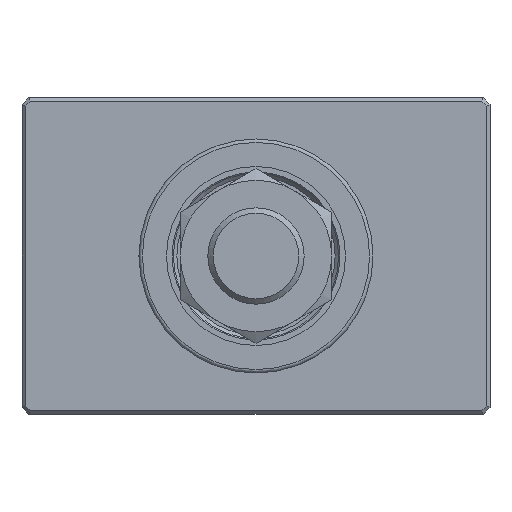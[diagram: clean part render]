
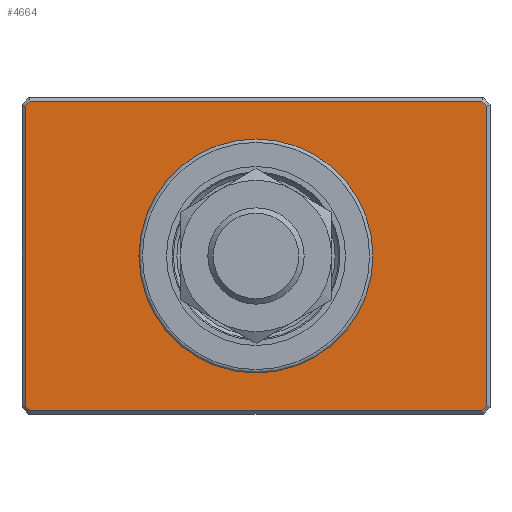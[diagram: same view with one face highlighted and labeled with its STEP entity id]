
A CAD part, front view. The second image highlights one B-rep face of the part: STEP entity #4664.
In plain terms, the highlighted planar face has unit normal (0, -1, 0).
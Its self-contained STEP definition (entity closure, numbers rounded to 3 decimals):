
#3719=CARTESIAN_POINT('',(0.0,-21.,17.0));
#3720=VERTEX_POINT('',#3719);
#3721=CARTESIAN_POINT('',(0.0,-21.,0.0));
#3722=DIRECTION('',(0.0,1.0,0.0));
#3723=DIRECTION('',(0.0,0.0,1.0));
#3724=AXIS2_PLACEMENT_3D('',#3721,#3722,#3723);
#3725=CIRCLE('',#3724,17.0);
#3726=EDGE_CURVE('',#3720,#3720,#3725,.T.);
#4590=CARTESIAN_POINT('',(0.0,-21.,-23.));
#4591=DIRECTION('',(0.0,-1.0,0.0));
#4592=DIRECTION('',(0.0,0.0,-1.0));
#4593=AXIS2_PLACEMENT_3D('',#4590,#4591,#4592);
#4594=PLANE('',#4593);
#4595=CARTESIAN_POINT('',(-32.793,-21.,-22.5));
#4596=VERTEX_POINT('',#4595);
#4597=CARTESIAN_POINT('',(-33.5,-21.,-21.793));
#4598=VERTEX_POINT('',#4597);
#4599=CARTESIAN_POINT('',(-32.793,-21.,-22.5));
#4600=DIRECTION('',(-0.707,0.0,0.707));
#4601=VECTOR('',#4600,1.);
#4602=LINE('',#4599,#4601);
#4603=EDGE_CURVE('',#4596,#4598,#4602,.T.);
#4604=ORIENTED_EDGE('',*,*,#4603,.F.);
#4605=CARTESIAN_POINT('',(32.793,-21.,-22.5));
#4606=VERTEX_POINT('',#4605);
#4607=CARTESIAN_POINT('',(32.793,-21.,-22.5));
#4608=DIRECTION('',(-1.0,0.0,0.0));
#4609=VECTOR('',#4608,65.586);
#4610=LINE('',#4607,#4609);
#4611=EDGE_CURVE('',#4606,#4596,#4610,.T.);
#4612=ORIENTED_EDGE('',*,*,#4611,.F.);
#4613=CARTESIAN_POINT('',(33.5,-21.,-21.793));
#4614=VERTEX_POINT('',#4613);
#4615=CARTESIAN_POINT('',(33.5,-21.,-21.793));
#4616=DIRECTION('',(-0.707,0.0,-0.707));
#4617=VECTOR('',#4616,1.);
#4618=LINE('',#4615,#4617);
#4619=EDGE_CURVE('',#4614,#4606,#4618,.T.);
#4620=ORIENTED_EDGE('',*,*,#4619,.F.);
#4621=CARTESIAN_POINT('',(33.5,-21.,21.793));
#4622=VERTEX_POINT('',#4621);
#4623=CARTESIAN_POINT('',(33.5,-21.,21.793));
#4624=DIRECTION('',(0.0,0.0,-1.0));
#4625=VECTOR('',#4624,43.586);
#4626=LINE('',#4623,#4625);
#4627=EDGE_CURVE('',#4622,#4614,#4626,.T.);
#4628=ORIENTED_EDGE('',*,*,#4627,.F.);
#4629=CARTESIAN_POINT('',(32.793,-21.,22.5));
#4630=VERTEX_POINT('',#4629);
#4631=CARTESIAN_POINT('',(32.793,-21.,22.5));
#4632=DIRECTION('',(0.707,0.0,-0.707));
#4633=VECTOR('',#4632,1.);
#4634=LINE('',#4631,#4633);
#4635=EDGE_CURVE('',#4630,#4622,#4634,.T.);
#4636=ORIENTED_EDGE('',*,*,#4635,.F.);
#4637=CARTESIAN_POINT('',(-32.793,-21.,22.5));
#4638=VERTEX_POINT('',#4637);
#4639=CARTESIAN_POINT('',(-32.793,-21.,22.5));
#4640=DIRECTION('',(1.0,0.0,0.0));
#4641=VECTOR('',#4640,65.586);
#4642=LINE('',#4639,#4641);
#4643=EDGE_CURVE('',#4638,#4630,#4642,.T.);
#4644=ORIENTED_EDGE('',*,*,#4643,.F.);
#4645=CARTESIAN_POINT('',(-33.5,-21.,21.793));
#4646=VERTEX_POINT('',#4645);
#4647=CARTESIAN_POINT('',(-33.5,-21.,21.793));
#4648=DIRECTION('',(0.707,0.0,0.707));
#4649=VECTOR('',#4648,1.);
#4650=LINE('',#4647,#4649);
#4651=EDGE_CURVE('',#4646,#4638,#4650,.T.);
#4652=ORIENTED_EDGE('',*,*,#4651,.F.);
#4653=CARTESIAN_POINT('',(-33.5,-21.,-21.793));
#4654=DIRECTION('',(0.0,0.0,1.0));
#4655=VECTOR('',#4654,43.586);
#4656=LINE('',#4653,#4655);
#4657=EDGE_CURVE('',#4598,#4646,#4656,.T.);
#4658=ORIENTED_EDGE('',*,*,#4657,.F.);
#4659=EDGE_LOOP('',(#4604,#4612,#4620,#4628,#4636,#4644,#4652,#4658));
#4660=FACE_OUTER_BOUND('',#4659,.T.);
#4661=ORIENTED_EDGE('',*,*,#3726,.T.);
#4662=EDGE_LOOP('',(#4661));
#4663=FACE_BOUND('',#4662,.T.);
#4664=ADVANCED_FACE('',(#4660,#4663),#4594,.T.);
